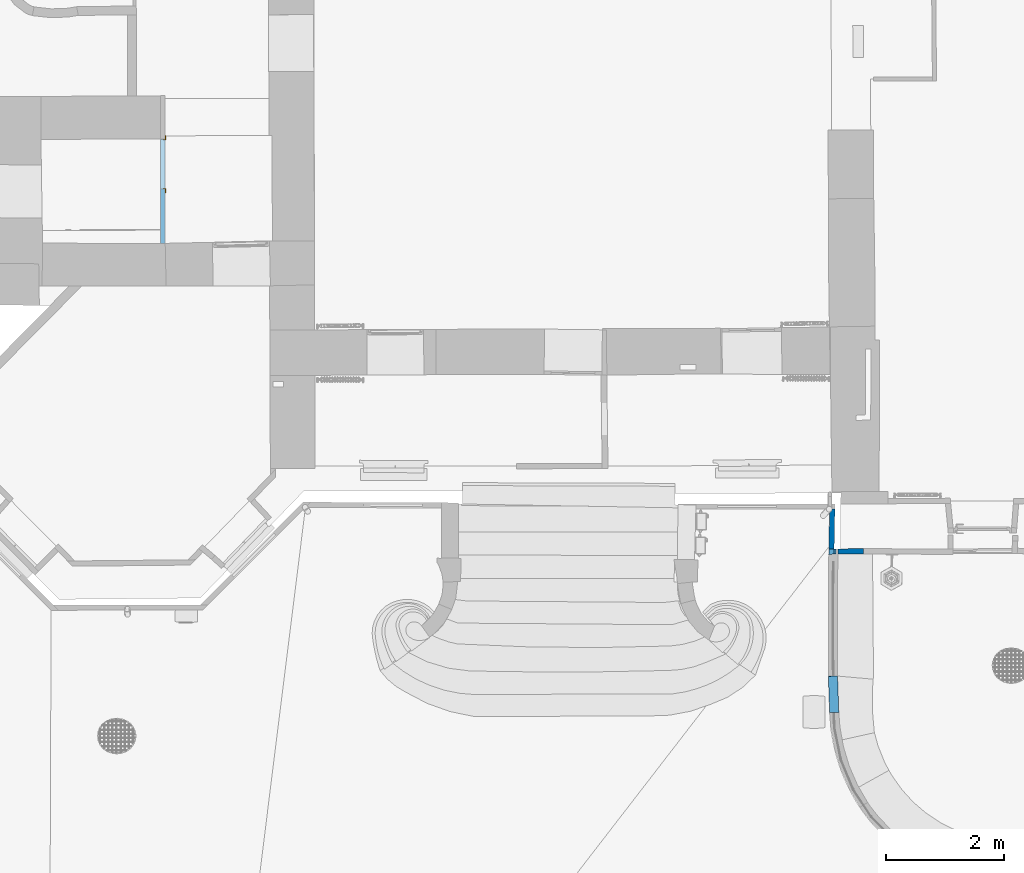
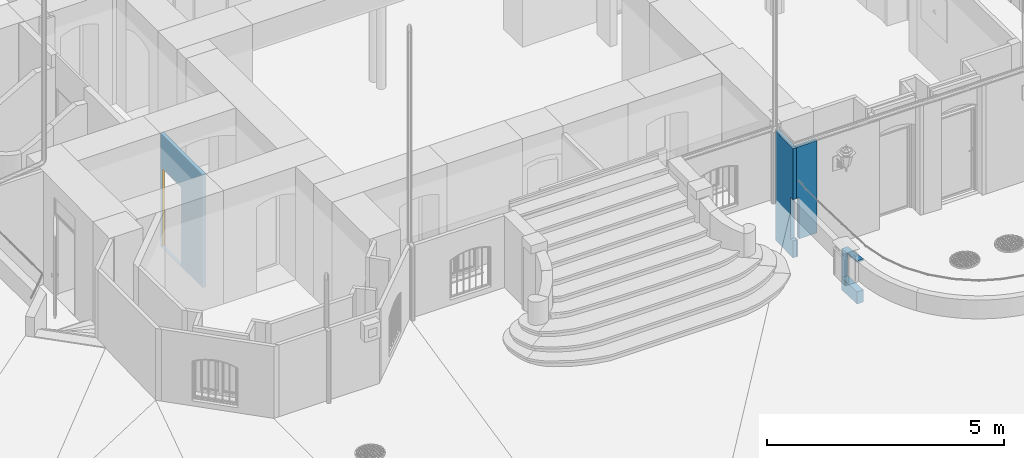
# One storey, part 91 of 133: 3 walls, 1 window, 1 opening, plus 1 element that does not belong to this part.
"""IFC2X3 building model written with IfcOpenShell, lengths in centimetres."""

from ifc_helpers import new_model, entity, si_unit, converted_unit, direction, frame, origin, origin_with_axes, place, context, subcontext, project, spatial, polyline, outline, extrude, faceted_brep, shape, source, transform, mapped, material, layer, layer_set, layer_usage, type_object, element, fill, save


model = new_model("IFC2X3")

# Units and contexts
model_context = context("Model", 3, precision=0.0001, world=origin(), true_north=direction((0.225632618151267, 0.974212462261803, 0.0)))
body_context = subcontext(model_context, "Body", "Model", "MODEL_VIEW")
footprint_context = subcontext(model_context, "FootPrint", "Model", "MODEL_VIEW")
profile_context = subcontext(model_context, "Profile", "Model", "MODEL_VIEW")
ifc_project = project(units=[si_unit("LENGTHUNIT", "METRE", prefix="CENTI"), si_unit("AREAUNIT", "SQUARE_METRE", prefix="CENTI"), si_unit("VOLUMEUNIT", "CUBIC_METRE", prefix="CENTI"), converted_unit("PLANEANGLEUNIT", "DEGREE", entity("IfcRatioMeasure", 0.0174532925), si_unit("PLANEANGLEUNIT", "RADIAN"), dimensions=[0, 0, 0, 0, 0, 0, 0])], contexts=[model_context])

# Site, building, storey
site_placement = place(None, origin_with_axes())
site = spatial("IfcSite", under=ifc_project, at=site_placement, Name="Default Site", CompositionType="ELEMENT")
building_placement = place(site_placement, origin_with_axes())
building = spatial("IfcBuilding", under=site, at=building_placement, Name="Default Building", CompositionType="ELEMENT")
storey_placement = place(building_placement, frame((0.0, 0.0, -291.400371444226), z_axis=(0.0, 0.0, 1.0), x_axis=(1.0, 0.0, 0.0)))
storey = spatial("IfcBuildingStorey", under=building, at=storey_placement, Name="Rez-de-Jardin", CompositionType="ELEMENT", Elevation=-291.400371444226)

# Walls
ifc_material_1 = material(Name="<aucun>")
ifc_layer_1 = layer(ifc_material_1, 9.0)
ifc_layer_set_1 = layer_set([ifc_layer_1], Name="default")
ifc_layer_usage_1 = layer_usage(ifc_layer_set_1, "AXIS2", "POSITIVE", -4.5)
wall_type_1 = type_object("IfcWallType", Name="default 90", PredefinedType="NOTDEFINED", material=ifc_layer_set_1)
wall_1_placement = place(storey_placement, frame((235.159228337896, -1047.56612268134, -1.94511073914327e-11), z_axis=(0.0, 0.0, 1.0), x_axis=(0.0184265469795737, 0.999830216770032, 0.0)))
element("IfcWall", 1, at=wall_1_placement, inside=storey, type_object=wall_type_1, material=ifc_layer_usage_1, Name="Enveloppe 352607", context=body_context, shape_type="Brep", body=[
    faceted_brep([(67.294624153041, 4.4999993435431, 1.03831487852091e-05), (-9.27868332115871, 4.49999929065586, 1.03831487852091e-05), (-9.27868332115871, 4.49999929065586, 32.0000037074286), (-7.98861979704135, 4.49999929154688, 32.0000037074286), (-4.53401559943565, 4.49999929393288, 32.0000037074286), (4.49750308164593e-05, 4.49999929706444, 32.0000037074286), (67.294624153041, 4.4999993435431, 32.0000037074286), (4.497503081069e-05, 4.5000076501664, 32.0000037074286), (-4.53401559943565, 4.50000764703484, 32.0000037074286), (-4.53401559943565, 4.50000764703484, 43.6999901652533), (4.497503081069e-05, 4.5000076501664, 43.6999901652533), (-4.53401559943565, 4.50000243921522, 32.0000037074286), (-7.98861979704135, 4.50000243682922, 32.0000037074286), (-7.98861979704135, 4.50000243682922, 43.6999901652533), (-4.53401559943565, 4.50000243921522, 43.6999901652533), (4.49750308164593e-05, 4.49999929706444, 43.6999901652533), (4.49750308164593e-05, 4.49999929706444, 149.99999846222), (4.49750308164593e-05, 4.49999929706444, 154.700003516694), (67.294624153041, 4.4999993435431, 154.700003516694), (-7.98861979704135, 4.50000377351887, 32.0000037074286), (-9.27868332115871, 4.50000377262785, 32.0000037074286), (-9.27868332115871, 4.50000377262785, 43.6999901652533), (-7.98861979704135, 4.50000377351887, 43.6999901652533), (4.497503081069e-05, 4.5000076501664, 149.99999846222), (-4.53401559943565, 4.50000764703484, 149.99999846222), (-4.53401559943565, 4.50000764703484, 154.700003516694), (4.497503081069e-05, 4.5000076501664, 154.700003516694), (-4.53401559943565, 4.50000243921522, 149.99999846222), (-7.98861979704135, 4.50000243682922, 149.99999846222), (-7.98861979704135, 4.50000243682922, 154.700003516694), (-4.53401559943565, 4.50000243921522, 154.700003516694), (-7.98861979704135, 4.50000377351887, 149.99999846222), (-9.27868332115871, 4.50000377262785, 149.99999846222), (-9.27868332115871, 4.50000377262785, 154.700003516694), (-7.98861979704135, 4.50000377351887, 154.700003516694), (-4.53401559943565, 4.49999929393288, 154.700003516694), (-7.98861979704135, 4.49999929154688, 154.700003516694), (-9.27868332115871, 4.49999929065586, 154.700003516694), (-9.27868332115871, 4.49999929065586, 281.400371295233), (67.294624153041, 4.4999993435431, 281.400371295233), (67.294624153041, 4.4999993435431, 270.39200360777), (-9.00417403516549, -4.50001095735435, 1.03831487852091e-05), (4.02562353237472e-05, -4.50001095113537, 1.03831487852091e-05), (4.02562353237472e-05, -4.50001095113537, 32.0000037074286), (-9.00417403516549, -4.50001095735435, 32.0000037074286), (4.02562353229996e-05, -4.50000986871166, 1.03831487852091e-05), (67.4594421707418, -4.50000982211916, 1.03831487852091e-05), (67.4594421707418, -4.50000982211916, 32.0000037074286), (4.02562353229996e-05, -4.50000986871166, 32.0000037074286), (4.02562353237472e-05, -4.50001095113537, 43.6999901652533), (-9.00417403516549, -4.50001095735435, 43.6999901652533), (67.4594421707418, -4.50000982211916, 154.700003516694), (4.02562353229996e-05, -4.50000986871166, 154.700003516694), (4.02562353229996e-05, -4.50000986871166, 149.99999846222), (4.02562353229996e-05, -4.50000986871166, 43.6999901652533), (-9.00417403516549, -4.50001095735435, 149.99999846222), (4.02562353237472e-05, -4.50001095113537, 149.99999846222), (4.02562353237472e-05, -4.50001095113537, 154.700003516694), (-9.00417403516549, -4.50001095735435, 154.700003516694), (4.02562353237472e-05, -4.50001095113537, 281.400371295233), (-9.00417403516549, -4.50001095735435, 281.400371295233), (67.4594421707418, -4.50000982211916, 270.39200360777), (67.4594421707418, -4.50000982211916, 281.400371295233), (4.02562353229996e-05, -4.50000986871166, 281.400371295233), (67.4594421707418, -4.50000897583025, 1.03831487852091e-05), (-9.27868332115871, 4.50000268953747, 1.03831487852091e-05), (67.2946549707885, 4.49999990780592, 1.03831487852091e-05), (67.2946549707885, 4.49999990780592, 32.0000037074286), (67.4594421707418, -4.50000897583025, 32.0000037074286), (-9.27809722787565, 4.47855217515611, 43.6999901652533), (4.49812468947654e-05, -4.50000986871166, 43.6999901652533), (4.49812468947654e-05, -4.50000986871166, 149.99999846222), (67.2946549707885, 4.49999990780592, 154.700003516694), (67.4594421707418, -4.50000897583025, 154.700003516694), (-9.27868332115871, 4.50000268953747, 43.6999901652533), (-9.27809722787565, 4.47855217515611, 149.99999846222), (-9.27868332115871, 4.50000268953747, 149.99999846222), (-9.27868332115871, 4.50000268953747, 281.400371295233), (67.4594421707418, -4.50000897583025, 281.400371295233), (67.2946549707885, 4.49999990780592, 270.39200360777), (67.4594421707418, -4.50000897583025, 270.39200360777), (67.2946549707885, 4.49999990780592, 281.400371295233), (-9.00414282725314, -4.50001000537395, 1.03831487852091e-05), (-9.00414282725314, -4.50001000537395, 32.0000037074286), (-9.27802904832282, 4.4785542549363, 32.0000037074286), (-9.27868332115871, 4.50000268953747, 32.0000037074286), (-9.27809722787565, 4.47855217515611, 32.0000037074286), (-9.00421100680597, -4.50001208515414, 32.0000037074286), (-9.00421100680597, -4.50001208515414, 43.6999901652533), (-9.27802904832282, 4.4785542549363, 43.6999901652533), (-9.00421100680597, -4.50001208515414, 149.99999846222), (-9.00421100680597, -4.50001208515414, 154.700003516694), (-9.27809722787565, 4.47855217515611, 154.700003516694), (-9.27802904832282, 4.4785542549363, 149.99999846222), (-9.27802904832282, 4.4785542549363, 154.700003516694), (-9.27868332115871, 4.50000268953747, 154.700003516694), (-9.00414282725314, -4.50001000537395, 154.700003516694), (-9.00414282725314, -4.50001000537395, 281.400371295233)], [[[0, 1, 2, 3, 4, 5, 6]], [[7, 8, 9, 10]], [[11, 12, 13, 14]], [[6, 5, 15, 16, 17, 18]], [[19, 20, 21, 22]], [[23, 24, 25, 26]], [[27, 28, 29, 30]], [[31, 32, 33, 34]], [[18, 17, 35, 36, 37, 38, 39, 40]], [[41, 42, 43, 44]], [[45, 46, 47, 48]], [[44, 43, 49, 50]], [[48, 47, 51, 52, 53, 54]], [[55, 56, 57, 58]], [[58, 57, 59, 60]], [[52, 51, 61, 62, 63]], [[0, 64, 45, 41, 65]], [[64, 66, 67, 68]], [[54, 10, 14, 22, 69, 50]], [[10, 70, 71, 23]], [[68, 67, 72, 73]], [[69, 22, 74]], [[55, 75, 31, 27, 23, 53]], [[76, 31, 75]], [[77, 60, 63, 78, 39]], [[73, 72, 79, 80]], [[80, 79, 81, 78]], [[65, 82, 83, 84, 85]], [[86, 87, 88, 69]], [[85, 84, 89, 74]], [[75, 90, 91, 92]], [[76, 93, 94, 95]], [[95, 94, 96, 97, 77]]]),
])
ifc_layer_usage_2 = layer_usage(ifc_layer_set_1, "AXIS2", "POSITIVE", -4.5)
wall_2_placement = place(storey_placement, frame((230.579025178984, -1052.25894044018, -1.94511073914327e-11), z_axis=(0.0, 0.0, 1.0), x_axis=(0.999927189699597, 0.0120671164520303, 0.0)))
element("IfcWall", 2, at=wall_2_placement, inside=storey, type_object=wall_type_1, material=ifc_layer_usage_2, Name="Enveloppe 353827", context=body_context, shape_type="Brep", body=[
    faceted_brep([(12.1773367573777, 4.50003713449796, 1.03831488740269e-05), (9.13441732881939, 4.50003713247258, 1.03831488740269e-05), (9.13441732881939, 4.50003713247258, 32.0000037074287), (9.13441732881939, 4.50003713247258, 43.6999901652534), (12.1773367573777, 4.50003713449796, 43.6999901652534), (58.675849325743, 4.49998076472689, 43.6999901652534), (15.3034697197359, 4.49998073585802, 43.6999901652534), (15.3034697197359, 4.49998073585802, 149.99999846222), (15.3034697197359, 4.49998073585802, 154.700003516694), (58.675849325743, 4.49998076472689, 154.700003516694), (58.675849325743, 4.49998076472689, 64.9999960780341), (15.3034697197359, 4.4999838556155, 149.99999846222), (12.1773367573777, 4.49998385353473, 149.99999846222), (9.13441732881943, 4.49998385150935, 149.99999846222), (9.13441732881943, 4.49998385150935, 154.700003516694), (15.3034697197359, 4.4999838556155, 154.700003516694), (9.13441732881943, 4.49998073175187, 154.700003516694), (9.13441732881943, 4.49998073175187, 281.400371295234), (58.675849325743, 4.49998076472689, 281.400371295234), (8.85987746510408, -4.49998800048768, 1.03831488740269e-05), (12.1365349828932, -4.49998799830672, 1.03831488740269e-05), (12.1365349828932, -4.49998799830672, 43.6999901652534), (8.85987746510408, -4.49998800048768, 43.6999901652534), (8.85987746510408, -4.49998800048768, 32.0000037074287), (15.1785961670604, -4.50003814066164, 43.6999901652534), (58.6758449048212, -4.50003811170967, 43.6999901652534), (58.6758449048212, -4.50003811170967, 64.9999960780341), (58.6758449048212, -4.50003811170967, 154.700003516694), (15.1785961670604, -4.50003814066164, 154.700003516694), (15.1785961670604, -4.50003814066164, 149.99999846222), (8.85987746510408, -4.49998800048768, 149.99999846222), (12.1365349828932, -4.49998799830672, 149.99999846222), (15.1785961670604, -4.49998799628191, 149.99999846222), (15.1785961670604, -4.49998799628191, 154.700003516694), (8.85987746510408, -4.49998800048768, 154.700003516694), (58.6758449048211, -4.49998796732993, 154.700003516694), (58.6758449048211, -4.49998796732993, 281.400371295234), (8.85987746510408, -4.49998800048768, 281.400371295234), (12.1365349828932, -4.50004569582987, 1.03831488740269e-05), (9.13441732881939, 4.5000399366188, 1.03831488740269e-05), (9.13441732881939, 4.5000399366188, 43.6999901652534), (12.1365349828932, -4.50004569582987, 43.6999901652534), (9.13441841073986, 4.50003990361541, 32.0000037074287), (9.13441841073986, 4.50003990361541, 1.03831488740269e-05), (12.1773322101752, 4.50003715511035, 1.03831488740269e-05), (12.1773322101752, 4.50003715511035, 43.6999901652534), (9.13441841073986, 4.50003990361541, 43.6999901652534), (58.6758449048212, -4.50002216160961, 43.6999901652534), (15.3034697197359, 4.4999838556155, 43.6999901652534), (15.1786084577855, -4.50003831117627, 43.6999901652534), (15.1786084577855, -4.50003831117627, 149.99999846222), (58.6758493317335, -4.5000221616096, 64.9999960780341), (58.6758493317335, -4.5000221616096, 43.6999901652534), (58.6758493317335, -4.5000221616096, 154.700003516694), (9.13441732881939, 4.5000399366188, 149.99999846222), (8.85987638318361, -4.49998796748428, 149.99999846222), (8.85987638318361, -4.49998796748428, 154.700003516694), (9.13441732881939, 4.5000399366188, 154.700003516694), (9.13441732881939, 4.5000399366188, 281.400371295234), (58.6758449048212, -4.50002216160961, 281.400371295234), (8.85987638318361, -4.49998796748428, 281.400371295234), (58.6758449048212, -4.50002216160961, 154.700003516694), (58.6758448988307, 4.49998076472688, 154.700003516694), (58.6758448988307, 4.49998076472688, 281.400371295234)], [[[0, 1, 2, 3, 4]], [[5, 6, 7, 8, 9, 10]], [[11, 12, 13, 14, 15]], [[9, 8, 16, 17, 18]], [[19, 20, 21, 22, 23]], [[24, 25, 26, 27, 28, 29]], [[30, 31, 32, 33, 34]], [[34, 33, 35, 36, 37]], [[0, 38, 19, 39]], [[40, 22, 41, 4]], [[23, 42, 43, 19]], [[38, 44, 45, 41]], [[22, 46, 42, 23]], [[5, 47, 24, 48]], [[48, 49, 50, 11]], [[10, 51, 52, 5]], [[9, 53, 51, 10]], [[54, 11, 29, 30]], [[54, 55, 56, 57]], [[18, 58, 37, 59]], [[57, 56, 60, 58]], [[61, 62, 63, 59]]]),
])
ifc_layer_2 = layer(ifc_material_1, 15.6)
ifc_layer_set_2 = layer_set([ifc_layer_2], Name="default")
ifc_layer_usage_3 = layer_usage(ifc_layer_set_2, "AXIS2", "POSITIVE", -7.8)
wall_type_2 = type_object("IfcWallType", Name="default 156", PredefinedType="NOTDEFINED", material=ifc_layer_set_2)
wall_3_placement = place(storey_placement, frame((239.778209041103, -1325.12223509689, 43.7), z_axis=(0.0, 0.0, 1.0), x_axis=(-0.0346037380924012, 0.999401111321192, 0.0)))
element("IfcWall", 3, at=wall_3_placement, inside=storey, type_object=wall_type_2, material=ifc_layer_usage_3, Name="Enveloppe courbe 287179", context=body_context, shape_type="Brep", body=[
    faceted_brep([(53.7614382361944, 7.7999912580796, -9.83476606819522e-06), (-0.000579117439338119, 7.79999126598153, -9.83476606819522e-06), (-0.000579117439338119, 7.79999126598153, 31.297197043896), (53.7614382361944, 7.7999912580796, 31.297197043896), (53.7614382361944, 7.7999912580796, 106.299998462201), (-6.4305190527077e-06, 7.79999126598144, 106.299998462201), (-6.4305190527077e-06, 7.79999126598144, 111.000003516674), (53.7614382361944, 7.7999912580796, 106.905867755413), (61.7173679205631, 7.80001213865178, 106.299998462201), (53.7614382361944, 7.80001213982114, 106.299998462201), (53.7614382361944, 7.80001213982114, 106.905867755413), (-0.000522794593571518, -7.80001064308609, -9.83476606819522e-06), (61.7174242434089, -7.80001065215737, -9.83476606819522e-06), (61.7174242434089, -7.80001065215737, 31.297197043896), (-0.000522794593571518, -7.80001064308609, 31.297197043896), (-0.000522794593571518, -7.80001064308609, 106.299998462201), (61.7174242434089, -7.80001065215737, 106.299998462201), (-4.54179904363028e-05, -7.80001064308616, 111.000003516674), (-0.000593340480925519, -2.9928518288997, -9.83476606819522e-06), (-0.000579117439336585, 7.80000170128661, -9.83476606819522e-06), (61.7174468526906, 7.51015724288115, -9.83476606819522e-06), (61.7174486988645, -6.44886056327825, -9.83476606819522e-06), (42.7347419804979, -4.47254034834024, -9.83476606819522e-06), (42.7347419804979, -4.47254034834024, 31.297197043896), (61.7174486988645, -6.44886056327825, 31.297197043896), (61.7174468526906, 7.51015724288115, 31.297197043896), (-0.000579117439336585, 7.80000170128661, 31.297197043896), (-0.000593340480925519, -2.9928518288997, 31.297197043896), (-0.00057911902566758, -2.9928518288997, -9.83476606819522e-06), (-0.00057911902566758, -2.9928518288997, 31.297197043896), (61.7174242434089, -7.80000020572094, -9.83476606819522e-06), (61.7664155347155, -6.45396744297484, -9.83476606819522e-06), (61.7664155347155, -6.45396744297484, 106.299998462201), (61.7174486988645, -6.44886056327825, 106.299998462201), (61.7174242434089, -7.80000020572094, 106.299998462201), (61.7664627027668, -6.45396916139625, -9.83476606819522e-06), (61.7664627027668, -6.45396916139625, 106.299998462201), (61.7174242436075, -6.44886056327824, 106.299998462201), (61.7174242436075, -6.44886056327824, 31.297197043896), (61.7174242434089, -7.80000020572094, 31.297197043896), (62.2744048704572, 7.48984705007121, -9.83476606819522e-06), (62.2744048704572, 7.48984705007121, 106.299998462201), (61.7174468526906, 7.51015724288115, 106.299998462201), (62.274415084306, 7.48984667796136, -9.83476606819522e-06), (62.274415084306, 7.48984667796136, 106.299998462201), (61.7174487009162, 7.51015724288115, 106.299998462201), (61.7174487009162, 7.51015724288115, 31.297197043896), (-0.000593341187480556, -7.80001064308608, -9.83476606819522e-06), (-0.000593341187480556, -7.80001064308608, 31.297197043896), (42.7347419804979, -4.47254034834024, 106.299998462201), (-2.14785780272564e-05, -2.99287162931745, 106.299998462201), (-6.43051905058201e-06, 7.80000572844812, 106.299998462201), (61.7174468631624, 7.51015724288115, 106.299998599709), (53.7614389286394, 7.7999912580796, 106.90587684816), (-6.56288331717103e-06, 7.80000572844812, 111.000001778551), (-2.1524042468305e-05, -2.99287162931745, 111.000002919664), (42.7347426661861, -4.47254034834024, 107.745598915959), (-6.432105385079e-06, -2.99287162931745, 106.299998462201), (-6.432105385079e-06, -2.99287162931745, 111.000003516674), (-6.43051905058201e-06, 7.80000572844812, 111.000003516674), (-0.000593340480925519, -2.9928518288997, 106.299998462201), (-0.000593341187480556, -7.80001064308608, 106.299998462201), (-0.000593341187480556, -7.80001064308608, 111.000003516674), (-0.000593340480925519, -2.9928518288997, 111.000003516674), (61.7174461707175, 7.51015724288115, 106.299989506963), (61.7173676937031, 7.80001213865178, 106.299995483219), (-0.000579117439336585, 7.80000170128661, 106.299998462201), (-0.00057911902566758, -2.9928518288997, 106.299998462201), (-0.00057911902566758, -2.9928518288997, 111.000003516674), (-0.000579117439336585, 7.80000170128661, 111.000003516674), (-4.54179904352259e-05, -7.80000331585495, 106.299998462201), (-4.53253624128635e-05, -7.80000331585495, 111.000004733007), (61.717424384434, -7.80000020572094, 106.300000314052), (-2.1479284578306e-05, -7.80000331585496, 106.299998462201), (-2.1479284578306e-05, -7.80000331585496, 111.000003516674), (-2.14785780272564e-05, -2.99287162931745, 111.000003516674), (53.7614389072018, 7.80000967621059, -9.83476606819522e-06), (53.7614389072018, 7.80000967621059, 31.297197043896), (61.7174461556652, 7.5101381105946, -9.83476606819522e-06), (61.7174461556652, 7.5101381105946, 31.297197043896), (61.7174461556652, 7.5101381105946, 106.299998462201)], [[[0, 1, 2, 3]], [[4, 5, 6, 7]], [[8, 9, 10]], [[11, 12, 13, 14]], [[15, 16, 17]], [[18, 19, 0, 20, 21, 22]], [[23, 24, 25, 3, 26, 27]], [[19, 28, 29, 26]], [[30, 21, 31]], [[32, 33, 34]], [[30, 35, 36, 34]], [[34, 37, 38, 39]], [[31, 21, 20, 40]], [[41, 42, 33, 32]], [[31, 43, 44, 32]], [[33, 45, 46, 24]], [[22, 21, 30, 11, 18]], [[27, 14, 39, 24, 23]], [[18, 47, 48, 27]], [[49, 50, 51, 4, 42, 33]], [[33, 52, 53, 54, 55, 56]], [[51, 57, 58, 59]], [[60, 61, 62, 63]], [[8, 42, 4]], [[7, 64, 65]], [[66, 67, 68, 69]], [[34, 70, 60, 49, 33]], [[33, 56, 55, 71, 72]], [[50, 73, 74, 75]], [[20, 76, 77, 25]], [[40, 78, 79, 80, 41]]]),
])

# Wall, opening, window
ifc_layer_3 = layer(ifc_material_1, 7.8)
ifc_layer_set_3 = layer_set([ifc_layer_3], Name="default")
ifc_layer_usage_4 = layer_usage(ifc_layer_set_3, "AXIS2", "POSITIVE", -3.9)
wall_type_3 = type_object("IfcWallType", Name="default 78", PredefinedType="NOTDEFINED", material=ifc_layer_set_3)
wall_4_placement = place(storey_placement, frame((-898.559055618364, -529.547125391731, -1.94511073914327e-11), z_axis=(0.0, 0.0, 1.0), x_axis=(-4.00020276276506e-05, 0.999999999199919, 0.0)))
wall_4 = element("IfcWallStandardCase", 4, at=wall_4_placement, inside=storey, type_object=wall_type_3, material=ifc_layer_usage_4, Name="Enveloppe 65396", context=body_context, shape_type="SweptSolid", body=[
    extrude(outline(polyline([(-0.0151260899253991, 3.89999999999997), (-0.0239484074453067, -2.01595838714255), (0.0180100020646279, -3.89999999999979), (177.336360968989, -3.89999999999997), (177.292804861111, 3.90000000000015), (-0.0151260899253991, 3.89999999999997)])), frame((0.0, 0.0, 4.44089209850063e-14), z_axis=(0.0, 0.0, 1.0), x_axis=(1.0, 0.0, 0.0)), (0.0, 0.0, 1.0), 291.413221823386),
])
opening_placement = place(wall_4_placement, frame((91.9704738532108, -2.27373675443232e-13, 0.546044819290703), z_axis=(0.0, 0.0, 1.0), x_axis=(1.0, -6.00614122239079e-16, 0.0)))
cartesian_point_1 = entity("IfcCartesianPoint", [0.0, 1.77635683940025e-13, 204.0])
cartesian_point_2 = entity("IfcCartesianPoint", [83.9999999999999, 3.90000000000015])
opening = element("IfcOpeningElement", 5, at=opening_placement, cuts=wall_4, Name="4294966557_11", ObjectType="Opening", shapes=[
    shape(body_context, "Body", "SweptSolid", [extrude(outline(polyline([(-8.88178419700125e-14, 204.0), (-8.88178419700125e-14, 0.0), (83.9999999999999, 0.0), (83.9999999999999, 204.0), (-8.88178419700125e-14, 204.0)])), frame((0.0, 13.9, 0.0), z_axis=(0.0, -1.0, 0.0), x_axis=(1.0, 0.0, 0.0)), (0.0, 0.0, 1.0), 27.8)]),
    shape(profile_context, "Profile", "GeometricCurveSet", [entity("IfcGeometricCurveSet", [entity("IfcPolyline", [cartesian_point_1, entity("IfcCartesianPoint", [0.0, 1.77635683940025e-13, 0.0]), entity("IfcCartesianPoint", [84.0, 1.77635683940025e-13, 0.0]), entity("IfcCartesianPoint", [84.0, 1.77635683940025e-13, 204.0]), cartesian_point_1])])]),
    shape(footprint_context, "FootPrint", "GeometricCurveSet", [entity("IfcGeometricCurveSet", [entity("IfcPolyline", [cartesian_point_2, entity("IfcCartesianPoint", [-8.88178419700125e-14, 3.90000000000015]), entity("IfcCartesianPoint", [-8.88178419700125e-14, -3.89999999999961]), entity("IfcCartesianPoint", [84.0, -3.89999999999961]), cartesian_point_2])])]),
])
ifc_material_2 = material(Name="Bleu pastel")
window_style = type_object("IfcWindowStyle", Name="Default Style Name", ConstructionType="NOTDEFINED", OperationType="NOTDEFINED", ParameterTakesPrecedence=False, Sizeable=True)
shared_shape = source(origin_with_axes(), body_context, "Body", "Brep", [
    faceted_brep([(41.0000056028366, 203.000020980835, -3.90003956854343), (41.0000056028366, 203.000020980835, -4.90006245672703), (41.0000056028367, 2.60786012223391e-21, -4.90006245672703), (41.0000056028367, 3.88601434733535e-29, -3.90003956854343), (40.9999996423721, 203.000020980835, -4.90006245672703), (48.9999920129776, 211.00001335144, -4.90006245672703), (48.9999920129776, 5.76712553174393e-25, -4.90006245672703), (40.9999996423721, 0.0, -4.90006245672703), (48.9999920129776, 211.00001335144, -4.90002855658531), (48.9999920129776, 211.00001335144, -3.90000566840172), (48.9999920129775, 2.5089838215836e-21, -3.90000566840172), (48.9999920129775, 3.73867718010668e-29, -4.90002855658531), (48.9999979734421, 211.00001335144, -3.90000566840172), (41.0000056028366, 203.000020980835, -3.90000566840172), (41.0000056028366, 0.0, -3.90000566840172), (48.9999979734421, 0.0, -3.90000566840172), (-41.0000115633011, 203.000020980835, -3.89998182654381), (-41.0000175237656, 203.000020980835, -4.9000047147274), (-49.000009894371, 211.00001335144, -4.90000471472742), (48.9999920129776, 211.00001335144, -4.90000471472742), (40.9999996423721, 203.000020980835, -4.9000047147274), (-49.000009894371, 211.00001335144, -4.90003861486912), (-49.0000039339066, 211.00001335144, -3.90001572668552), (-41.0000115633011, 203.000020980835, -3.9000157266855), (41.0000056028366, 203.000020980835, -3.9000157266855), (48.9999979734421, 211.00001335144, -3.90001572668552), (-41.0000115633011, 0.0, -3.89998182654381), (-41.0000115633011, 0.0, -4.9000047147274), (-41.0000115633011, 203.000020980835, -4.9000047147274), (-41.0000175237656, 0.0, -4.9000047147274), (-49.000009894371, 0.0, -4.9000047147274), (-49.000009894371, 211.00001335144, -4.9000047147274), (-49.000009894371, 0.0, -4.90003861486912), (-49.000009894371, 0.0, -3.90001572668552), (-49.000009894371, 211.00001335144, -3.90001572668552), (-49.0000039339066, 0.0, -3.90001572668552), (-41.0000115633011, 7.18420609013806e-27, -3.90001572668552), (-41.0000115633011, 203.000020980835, -3.90001572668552), (41.0000056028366, 0.0, -3.90003956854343), (48.9999920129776, 0.0, -4.90002855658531)], [[[0, 1, 2, 3]], [[4, 5, 6, 7]], [[8, 9, 10, 11]], [[12, 13, 14, 15]], [[16, 17, 4, 0]], [[17, 18, 19, 20]], [[21, 22, 12, 8]], [[22, 23, 24, 25]], [[26, 27, 28, 16]], [[29, 30, 31, 17]], [[32, 33, 34, 21]], [[35, 36, 37, 22]], [[38, 7, 39, 15]], [[35, 32, 29, 26]]]),
    faceted_brep([(41.9999808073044, 0.0, -3.89999933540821), (41.0000056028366, 7.04157909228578e-25, -3.89999933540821), (41.0000056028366, 203.000020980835, -3.89999933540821), (41.9999808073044, 203.999996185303, -3.89999933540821), (41.0000056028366, 0.0, -3.90003956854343), (41.0000056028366, 5.21572016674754e-21, 1.17119171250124e-05), (41.0000056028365, 203.000020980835, 1.17119171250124e-05), (41.0000056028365, 203.000020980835, -3.90003956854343), (40.9999936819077, 0.0, 1.17119171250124e-05), (42.0000165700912, 0.0, 1.17119171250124e-05), (42.0000165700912, 203.999996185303, 1.17119171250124e-05), (40.9999936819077, 203.000020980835, 1.17119171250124e-05), (42.0000165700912, 0.0, -4.36525709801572e-05), (42.0000165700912, 0.0, -3.89999933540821), (42.0000165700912, 203.999996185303, -3.89999933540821), (42.0000165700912, 203.999996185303, -4.36525709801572e-05), (41.0000056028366, 203.000020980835, -3.89999933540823), (-41.0000115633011, 203.000020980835, -3.89999933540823), (-42.0000106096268, 203.999996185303, -3.89999933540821), (41.0000056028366, 203.000020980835, -3.90003956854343), (-40.9999996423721, 203.000020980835, -2.59615177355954e-05), (-41.0000115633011, 203.000020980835, -3.89998182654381), (42.0000165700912, 203.999996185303, 1.17119171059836e-05), (-41.9999986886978, 203.999996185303, 1.17119171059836e-05), (-40.9999996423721, 203.000020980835, 1.17119171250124e-05), (-42.0000106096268, 203.999996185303, -3.90002168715), (-41.9999986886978, 203.999996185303, -6.59635077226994e-05), (-41.0000115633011, 203.000020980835, -3.90002168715), (-41.0000115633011, 0.0, -3.90002168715), (-42.0000106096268, 0.0, -3.90002168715), (-41.0000115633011, 203.000020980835, -2.59615177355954e-05), (-41.0000115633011, 0.0, -2.59615177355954e-05), (-41.0000115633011, 0.0, -3.89998182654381), (-41.9999986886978, 203.999996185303, -2.59615177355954e-05), (-41.9999986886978, 0.0, -2.59615177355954e-05), (-40.9999996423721, 0.0, -2.59615177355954e-05), (-41.9999986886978, 203.999996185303, -3.90002168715), (-41.9999986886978, 0.0, -3.90002168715), (-41.9999986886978, 0.0, -6.59635077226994e-05), (42.0000165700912, -4.4408416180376e-14, -4.36525709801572e-05), (40.9999936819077, -4.44090466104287e-14, 1.17119171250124e-05), (41.0000056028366, 4.58130789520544e-19, -3.90003956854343), (-40.9999996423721, -4.44084182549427e-14, -2.59615177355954e-05), (-41.9999986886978, -4.44079627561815e-14, -6.59635077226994e-05), (-42.0000106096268, 4.53888837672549e-19, -3.90002168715)], [[[0, 1, 2, 3]], [[4, 5, 6, 7]], [[8, 9, 10, 11]], [[12, 13, 14, 15]], [[3, 16, 17, 18]], [[19, 11, 20, 21]], [[11, 22, 23, 24]], [[15, 3, 25, 26]], [[25, 27, 28, 29]], [[21, 30, 31, 32]], [[20, 33, 34, 35]], [[26, 36, 37, 38]], [[0, 39, 40, 41]], [[32, 42, 43, 44]]]),
])
window_placement = place(opening_placement, origin_with_axes())
window = element("IfcWindow", 6, at=window_placement, inside=storey, type_object=window_style, material=ifc_material_2, Name="Baie 78728", ObjectType="Opening", context=body_context, shape_type="MappedRepresentation", body=[
    mapped(shared_shape, transform((42.0, 0.0, 8.88178419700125e-14), x_axis=(-1.0, -1.22467411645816e-16, 0.0), y_axis=(0.0, 0.0, 1.0), z_axis=(-1.22467411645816e-16, 1.0, 0.0), scale=1.0, scale2=1.0, scale3=1.0, uniform=False)),
])
fill(opening, window)

save(model, "model.ifc")
